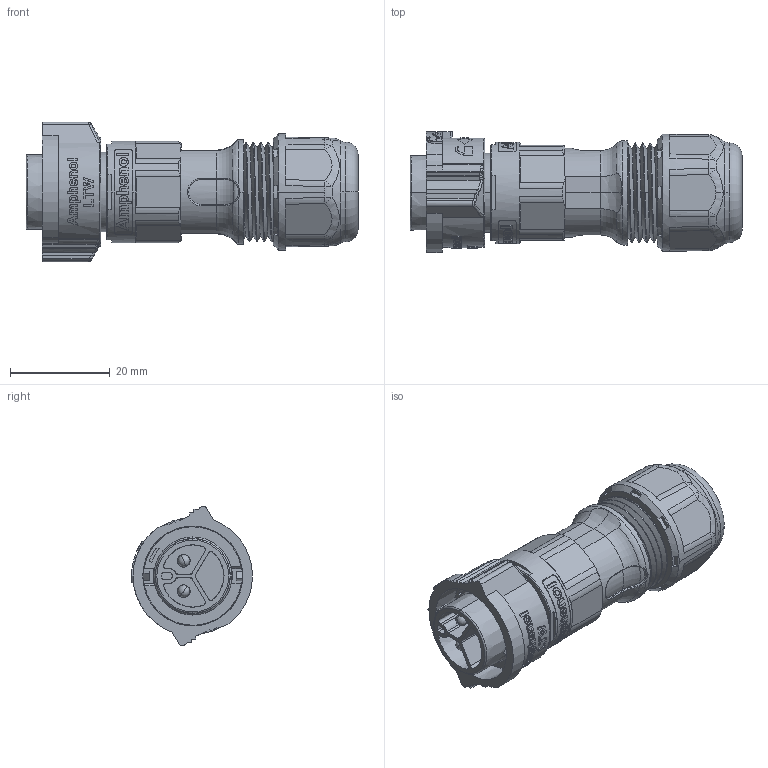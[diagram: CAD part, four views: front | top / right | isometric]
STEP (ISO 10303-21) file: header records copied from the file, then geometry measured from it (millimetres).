
FILE_DESCRIPTION((''),'2;1');
FILE_NAME('CC-XXBFMB-QL8XPP_SW0001','2021-10-07T',('L210037'),(''),'PRO/ENGINEER BY PARAMETRIC TECHNOLOGY CORPORATION, 2017170','PRO/ENGINEER BY PARAMETRIC TECHNOLOGY CORPORATION, 2017170','');
FILE_SCHEMA(('CONFIG_CONTROL_DESIGN'));
Products named in the file (1): CC-XXBFMB-QL8XPP_SW0001
Bounding box: 66.7 x 24.31 x 28 mm (x, y, z)
Volume: 15955.9 mm3; surface area: 9464.9 mm2
Topology: 1 solids, 2 shells, 1051 faces, 2775 edges, 1789 vertices
Faces by surface type: plane 339, extrusion 270, cylinder 159, bspline 157, cone 76, torus 34, sphere 16
Entity records: 52280 total; most frequent: CARTESIAN_POINT 24765, ORIENTED_EDGE 5542, DIRECTION 3585, EDGE_CURVE 2771, VERTEX_POINT 1789, B_SPLINE_CURVE_WITH_KNOTS 1512, VECTOR 1261, AXIS2_PLACEMENT_3D 1162
